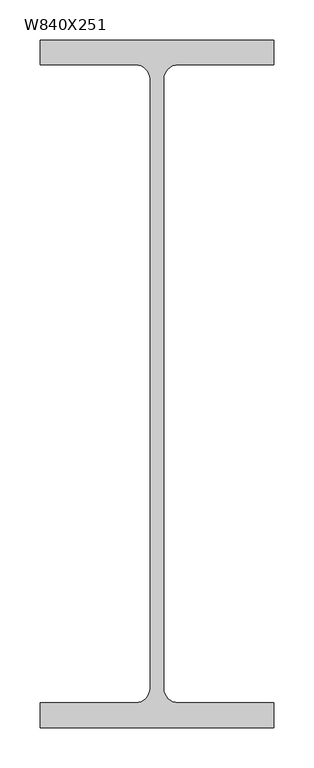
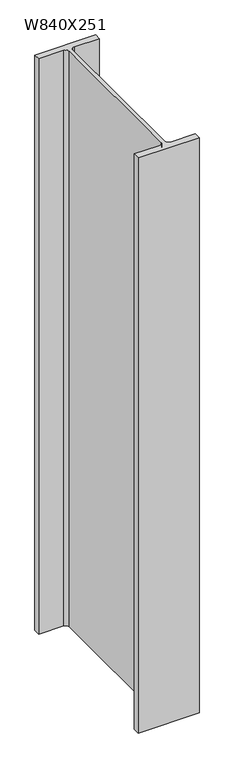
"""IFC4 building model written with IfcOpenShell, lengths in millimetres: column geometry, M_W Shapes-Column : W840X251."""

import ifcopenshell
import ifcopenshell.guid

model = None  # the IFC model being written
_history = None  # IfcOwnerHistory: only IFC2X3 demands one
_inside = {}  # id of a spatial element -> (the spatial element, [elements in it])
_under = {}  # id of a project, library or spatial element -> (it, [spatial elements below it])
_declared = {}  # id of a project -> (the project, [libraries it declares])
_typed = {}  # id of a type object -> (the type object, [elements of that type])
_made_of = {}  # id of a material, layer set ... -> (it, [elements and type objects made of it])


def new_model(schema):
    """Start an empty IFC model of exactly this schema.

    Asked for "IFC4X3", IfcOpenShell would pick the latest addendum, in which some entities
    have other attributes; the version numbers below select the first issue.
    IFC2X3 requires an IfcOwnerHistory on every rooted entity: one is made here for all.
    """
    global model, _history
    if schema == "IFC4X3":
        model = ifcopenshell.file(schema_version=(4, 3, 0, 0))
    else:
        model = ifcopenshell.file(schema=schema)
    _inside.clear()
    _under.clear()
    _declared.clear()
    _typed.clear()
    _made_of.clear()
    _history = None
    if model.schema == "IFC2X3":
        org = make("IfcOrganization", Name="unknown")
        user = make(
            "IfcPersonAndOrganization",
            ThePerson=make("IfcPerson", FamilyName="unknown"),
            TheOrganization=org,
        )
        app = make(
            "IfcApplication",
            ApplicationDeveloper=org,
            Version="unknown",
            ApplicationFullName="unknown",
            ApplicationIdentifier="unknown",
        )
        _history = make(
            "IfcOwnerHistory",
            OwningUser=user,
            OwningApplication=app,
            ChangeAction="ADDED",
            CreationDate=0,
        )
    return model


def make(cls, **values):
    """One entity of the class cls with the attributes given. An attribute that is None is left unset."""
    return model.create_entity(
        cls, **{name: value for name, value in values.items() if value is not None}
    )


def rooted(cls, **values):
    """An entity with a GlobalId (a new one), such as an element, a storey or a relation."""
    return make(cls, GlobalId=ifcopenshell.guid.new(), OwnerHistory=_history, **values)


def si_unit(unit_type, name, prefix=None):
    """IfcSIUnit, for example si_unit("LENGTHUNIT", "METRE", prefix="MILLI")."""
    return make("IfcSIUnit", UnitType=unit_type, Prefix=prefix, Name=name)


def assignment(units):
    """IfcUnitAssignment: the units of a project."""
    return None if units is None else make("IfcUnitAssignment", Units=units)


def point(xyz):
    """IfcCartesianPoint."""
    return None if xyz is None else make("IfcCartesianPoint", Coordinates=xyz)


def direction(xyz):
    """IfcDirection."""
    return None if xyz is None else make("IfcDirection", DirectionRatios=xyz)


def frame(location, z_axis=None, x_axis=None):
    """IfcAxis2Placement3D, a coordinate frame: its origin and axes. An axis left out is left unset."""
    return make(
        "IfcAxis2Placement3D",
        Location=point(location),
        Axis=direction(z_axis),
        RefDirection=direction(x_axis),
    )


def frame_2d(location, x_axis=None):
    """IfcAxis2Placement2D, a coordinate frame in the plane: its origin and x axis."""
    return make(
        "IfcAxis2Placement2D", Location=point(location), RefDirection=direction(x_axis)
    )


def origin():
    """The frame at (0, 0, 0) with its axes left unset."""
    return frame((0.0, 0.0, 0.0))


def origin_with_axes():
    """The frame at (0, 0, 0) with the z axis (0, 0, 1) and the x axis (1, 0, 0) written out."""
    return frame((0.0, 0.0, 0.0), z_axis=(0.0, 0.0, 1.0), x_axis=(1.0, 0.0, 0.0))


def place(relative_to, where):
    """IfcLocalPlacement: puts the frame where relative to a parent placement (None: the world)."""
    return make(
        "IfcLocalPlacement", PlacementRelTo=relative_to, RelativePlacement=where
    )


def context(
    kind, dimensions, precision=None, world=None, true_north=None, identifier=None
):
    """IfcGeometricRepresentationContext, for example the 3D "Model" context."""
    return make(
        "IfcGeometricRepresentationContext",
        ContextIdentifier=identifier,
        ContextType=kind,
        CoordinateSpaceDimension=dimensions,
        Precision=precision,
        WorldCoordinateSystem=world,
        TrueNorth=true_north,
    )


def project(units=None, contexts=None):
    """IfcProject with its units and contexts."""
    return rooted(
        "IfcProject",
        Name="project",
        RepresentationContexts=contexts,
        UnitsInContext=assignment(units),
    )


def spatial(cls, under=None, at=None, **own):
    """A site, building, storey or space (cls), placed at a placement, below another one or the project."""
    s = rooted(cls, ObjectPlacement=at, **own)
    if under is not None:
        _under.setdefault(under.id(), (under, []))[1].append(s)
    return s


def polyline(points):
    """IfcPolyline through the points."""
    return make("IfcPolyline", Points=[point(p) for p in points])


def circle_curve(where, radius):
    """IfcCircle in the frame where."""
    return make("IfcCircle", Position=where, Radius=radius)


def trimmed(basis, trim1, trim2, sense, master):
    """IfcTrimmedCurve: the piece of a basis curve between two trims."""
    return make(
        "IfcTrimmedCurve",
        BasisCurve=basis,
        Trim1=trim1,
        Trim2=trim2,
        SenseAgreement=sense,
        MasterRepresentation=master,
    )


def segment(curve, same_sense, transition):
    """IfcCompositeCurveSegment."""
    return make(
        "IfcCompositeCurveSegment",
        Transition=transition,
        SameSense=same_sense,
        ParentCurve=curve,
    )


def composite_curve(segments, self_intersect=None):
    """IfcCompositeCurve: segments joined end to end."""
    return make("IfcCompositeCurve", Segments=segments, SelfIntersect=self_intersect)


def outline(outer, holes=None, kind="AREA"):
    """IfcArbitraryClosedProfileDef: a profile drawn as a closed curve; with holes, ...WithVoids."""
    if holes is None:
        return make("IfcArbitraryClosedProfileDef", ProfileType=kind, OuterCurve=outer)
    return make(
        "IfcArbitraryProfileDefWithVoids",
        ProfileType=kind,
        OuterCurve=outer,
        InnerCurves=holes,
    )


def extrude(swept, where, along, depth):
    """IfcExtrudedAreaSolid: the profile swept, set in the frame where, extruded along a direction by depth."""
    return make(
        "IfcExtrudedAreaSolid",
        SweptArea=swept,
        Position=where,
        ExtrudedDirection=direction(along),
        Depth=depth,
    )


def shape(context_of_items, identifier, shape_type, items):
    """IfcShapeRepresentation: the items that make up one representation, for example the "Body"."""
    return make(
        "IfcShapeRepresentation",
        ContextOfItems=context_of_items,
        RepresentationIdentifier=identifier,
        RepresentationType=shape_type,
        Items=items,
    )


def source(mapping_origin, context_of_items, identifier, shape_type, items):
    """IfcRepresentationMap: a shape defined once, which mapped items show again and again."""
    return make(
        "IfcRepresentationMap",
        MappingOrigin=mapping_origin,
        MappedRepresentation=shape(context_of_items, identifier, shape_type, items),
    )


def transform(
    local_origin,
    x_axis=None,
    y_axis=None,
    z_axis=None,
    scale=None,
    scale2=None,
    scale3=None,
    uniform=True,
):
    """IfcCartesianTransformationOperator3D, or its non-uniform kind. x_axis, y_axis, z_axis: its Axis1, 2, 3."""
    if uniform:
        return make(
            "IfcCartesianTransformationOperator3D",
            Axis1=direction(x_axis),
            Axis2=direction(y_axis),
            LocalOrigin=point(local_origin),
            Scale=scale,
            Axis3=direction(z_axis),
        )
    return make(
        "IfcCartesianTransformationOperator3DnonUniform",
        Axis1=direction(x_axis),
        Axis2=direction(y_axis),
        LocalOrigin=point(local_origin),
        Scale=scale,
        Axis3=direction(z_axis),
        Scale2=scale2,
        Scale3=scale3,
    )


def mapped(mapping_source, mapping_target):
    """IfcMappedItem: shows the shape of a source again, moved by a transform."""
    return make(
        "IfcMappedItem", MappingSource=mapping_source, MappingTarget=mapping_target
    )


def made_of(thing, what):
    """Note that an element or type object is made of a material, layer set ...; save() writes the relation."""
    if what is not None:
        _made_of.setdefault(what.id(), (what, []))[1].append(thing)
    return thing


def element(
    cls,
    number,
    at=None,
    inside=None,
    cuts=None,
    type_object=None,
    material=None,
    context=None,
    identifier="Body",
    shape_type=None,
    held_by="IfcProductDefinitionShape",
    body=None,
    shapes=None,
    **own,
):
    """One element of the class cls, such as IfcWall. Its Tag is "e" and its number.

    at: its placement. inside: the storey or other place that contains it. cuts: it is an
    opening in that element (IfcRelVoidsElement). A single representation is given by context,
    identifier, shape_type and body (its items); several are given by shapes. held_by: the class
    of the entity that holds the representations. save() writes the other relations.
    """
    e = rooted(cls, Tag="e%d" % number, ObjectPlacement=at, **own)
    if body is not None:
        shapes = [shape(context, identifier, shape_type, body)]
    if shapes is not None:
        e.Representation = make(held_by, Representations=shapes)
    if inside is not None:
        _inside.setdefault(inside.id(), (inside, []))[1].append(e)
    if cuts is not None:
        rooted(
            "IfcRelVoidsElement", RelatingBuildingElement=cuts, RelatedOpeningElement=e
        )
    if type_object is not None:
        _typed.setdefault(type_object.id(), (type_object, []))[1].append(e)
    return made_of(e, material)


def aggregate(whole, parts):
    """IfcRelAggregates: a whole, such as a stair, and the parts it consists of."""
    return rooted("IfcRelAggregates", RelatingObject=whole, RelatedObjects=parts)


def save(model, path):
    """Write the relations noted so far, then the file.

    IfcRelAggregates (storeys below a building ...), IfcRelContainedInSpatialStructure (elements
    in a storey), IfcRelDefinesByType, IfcRelAssociatesMaterial and IfcRelDeclares: one each for
    every whole, place, type object, material and project.
    """
    for whole, parts in _under.values():
        aggregate(whole, parts)
    for where, things in _inside.values():
        rooted(
            "IfcRelContainedInSpatialStructure",
            RelatedElements=things,
            RelatingStructure=where,
        )
    for kind, things in _typed.values():
        rooted("IfcRelDefinesByType", RelatedObjects=things, RelatingType=kind)
    for what, things in _made_of.values():
        rooted("IfcRelAssociatesMaterial", RelatedObjects=things, RelatingMaterial=what)
    for by, libraries in _declared.values():
        rooted("IfcRelDeclares", RelatingContext=by, RelatedDefinitions=libraries)
    model.write(path)


def w840x251_85c665ee(model_context):
    return source(origin(), model_context, "Body", "SweptSolid", [
        extrude(outline(composite_curve([segment(polyline([(146.0, 429.5), (146.0, 398.5), (26.3, 398.5)]), True, "CONTINUOUS"), segment(trimmed(circle_curve(frame_2d((26.3, 380.7)), 17.8), [point((26.3, 398.5))], [point((8.5, 380.7))], True, "CARTESIAN"), True, "CONTINUOUS"), segment(polyline([(8.5, 380.7), (8.5, -380.7)]), True, "CONTINUOUS"), segment(trimmed(circle_curve(frame_2d((26.3, -380.7)), 17.8), [point((8.5, -380.7))], [point((26.3, -398.5))], True, "CARTESIAN"), True, "CONTINUOUS"), segment(polyline([(26.3, -398.5), (146.0, -398.5), (146.0, -429.5), (-146.0, -429.5), (-146.0, -398.5), (-26.3, -398.5)]), True, "CONTINUOUS"), segment(trimmed(circle_curve(frame_2d((-26.3, -380.7)), 17.8), [point((-26.3, -398.5))], [point((-8.5, -380.7))], True, "CARTESIAN"), True, "CONTINUOUS"), segment(polyline([(-8.5, -380.7), (-8.5, 380.7)]), True, "CONTINUOUS"), segment(trimmed(circle_curve(frame_2d((-26.3, 380.7)), 17.8), [point((-8.5, 380.7))], [point((-26.3, 398.5))], True, "CARTESIAN"), True, "CONTINUOUS"), segment(polyline([(-26.3, 398.5), (-146.0, 398.5), (-146.0, 429.5), (146.0, 429.5)]), True, "CONTINUOUS")], self_intersect=False)), origin_with_axes(), (0.0, 0.0, 1.0), 2921.0),
    ])


if __name__ == "__main__":
    model = new_model("IFC4")
    model_context = context("Model", 3, world=origin())
    ifc_project = project(units=[si_unit("LENGTHUNIT", "METRE", prefix="MILLI")], contexts=[model_context])
    site = spatial("IfcSite", under=ifc_project)
    building = spatial("IfcBuilding", under=site)
    placement = place(None, origin())
    w840x251_shape = w840x251_85c665ee(model_context)
    element("IfcColumn", 1, ObjectType="M_W Shapes-Column : W840X251", at=placement, inside=building, context=model_context, shape_type="MappedRepresentation", body=[
        mapped(w840x251_shape, transform((0.0, 0.0, 0.0), x_axis=(1.0, 0.0, 0.0), y_axis=(0.0, 1.0, 0.0), z_axis=(0.0, 0.0, 1.0))),
    ])
    save(model, "model.ifc")
